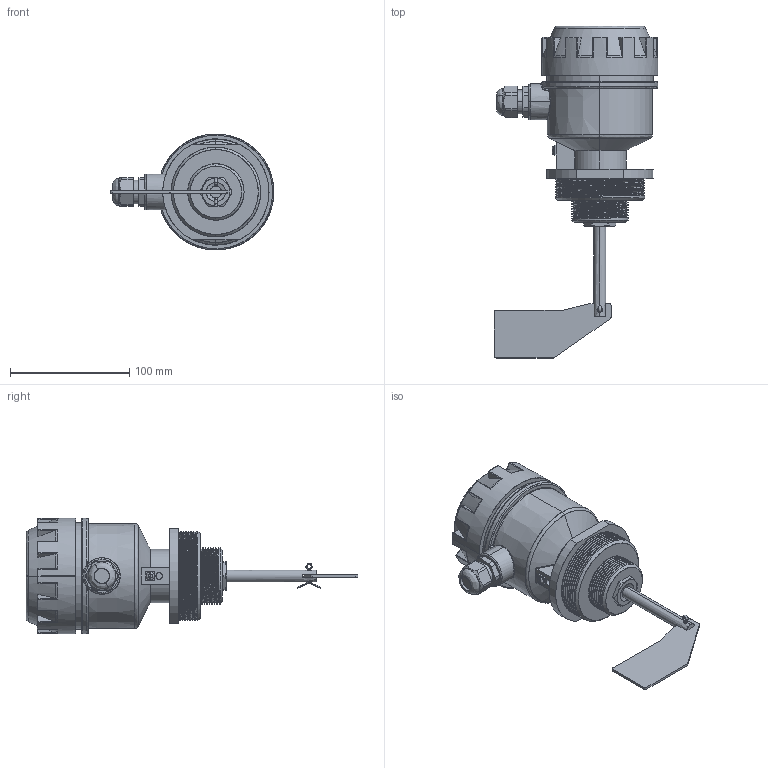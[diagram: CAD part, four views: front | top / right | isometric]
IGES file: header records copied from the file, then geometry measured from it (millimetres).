
Start section: SolidWorks IGES file using analytic representation for surfaces
Global section: file name: C:\Users\Äîì\Desktop\Äàò÷èêè ìîäåëè\IL-LDA-N\Ðåçüáà\IL-LDA-N - ð.IGS; native system: SolidWorks 2020; preprocessor: SolidWorks 2020; author: Äîì; date: 201223.192907; units: millimetre
Bounding box: 137 x 278 x 97 mm (x, y, z)
Surface area: 106043.8 mm2 (no closed solid volume)
Topology: 0 solids, 0 shells, 442 faces, 5681 edges, 5661 vertices
Faces by surface type: revolution 236, bspline 206
